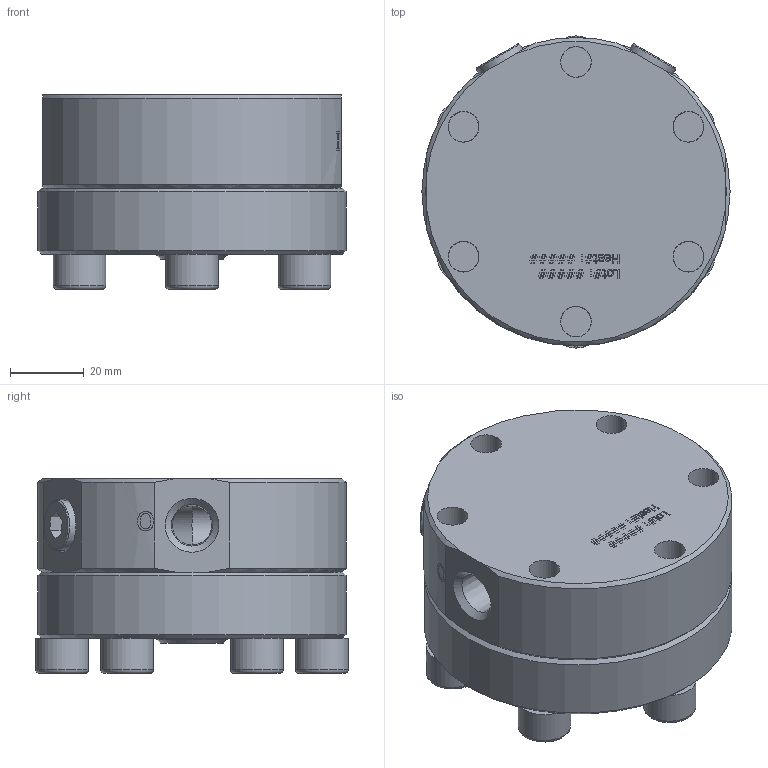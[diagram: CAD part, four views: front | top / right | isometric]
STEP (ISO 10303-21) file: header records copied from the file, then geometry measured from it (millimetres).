
FILE_DESCRIPTION(/* description */ (''),/* implementation_level */ '2;1');
FILE_NAME(/* name */ 'GSDH2NT5A Assembly.stp',/* time_stamp */ '2024-08-21T10:09:16-04:00',/* author */ ('mkowall'),/* organization */ (''),/* preprocessor_version */ 'ST-DEVELOPER v19.2',/* originating_system */ 'Autodesk Inventor 2023',/* authorisation */ '');
FILE_SCHEMA (('AUTOMOTIVE_DESIGN { 1 0 10303 214 3 1 1 }'));
Length unit declared in the file: inch
Products named in the file (1): GSDH2NT5A Assembly_Simplify_1
Bounding box: 83.82 x 84.88 x 52.96 mm (x, y, z)
Volume: 221921.4 mm3; surface area: 56622.3 mm2
Topology: 10 solids, 10 shells, 1318 faces, 3586 edges, 2384 vertices
Faces by surface type: plane 1094, bspline 108, cylinder 49, cone 49, torus 18
Full cylindrical faces by diameter (mm): 8.382 x6, 8.611 x1, 9.525 x6, 9.804 x6, 10.716 x6, 10.719 x4, 14.275 x6, 48.768 x1, 53.746 x1, 55.093 x1, 60.046 x1, 83.82 x1
Entity records: 42065 total; most frequent: CARTESIAN_POINT 9361, ORIENTED_EDGE 7152, DIRECTION 5945, EDGE_CURVE 3576, LINE 3081, VECTOR 3081, VERTEX_POINT 2384, EDGE_LOOP 1452
